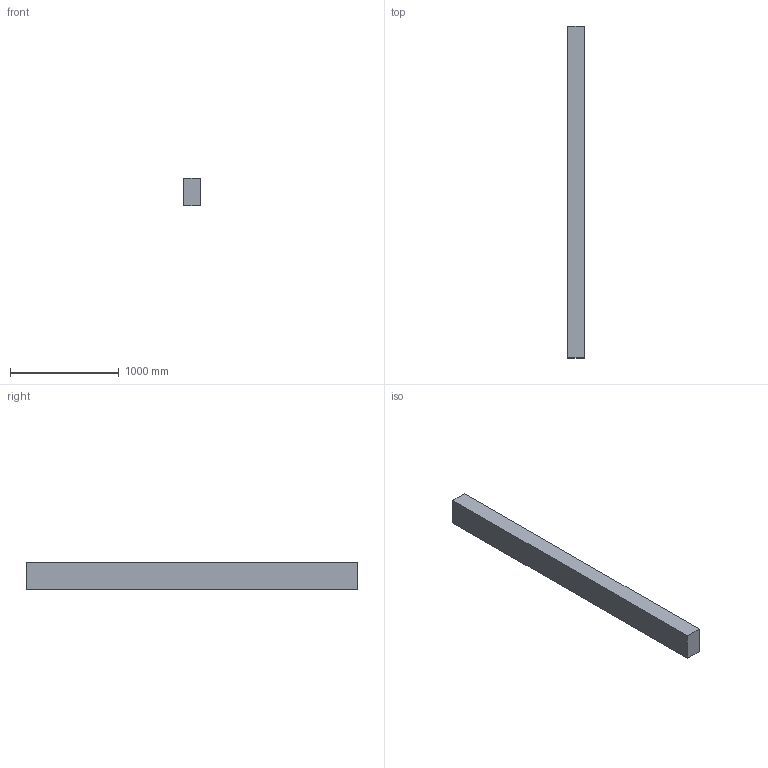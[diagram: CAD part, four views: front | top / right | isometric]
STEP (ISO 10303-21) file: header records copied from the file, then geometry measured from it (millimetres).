
FILE_DESCRIPTION(/* description */ (''),/* implementation_level */ '2;1');
FILE_NAME(/* name */ '6x10x120',/* time_stamp */ '2024-09-20T11:47:31-05:00',/* author */ (''),/* organization */ (''),/* preprocessor_version */ 'ST-DEVELOPER v19.2',/* originating_system */ 'Rhino 8.5',/* authorisation */ '');
FILE_SCHEMA (('CONFIG_CONTROL_DESIGN'));
Length unit declared in the file: inch
Products named in the file (1): Document
Bounding box: 152.4 x 3048 x 254 mm (x, y, z)
Volume: 117986860.8 mm3; surface area: 2554833.6 mm2
Topology: 1 solids, 1 shells, 6 faces, 12 edges, 8 vertices
Faces by surface type: plane 6
Entity records: 226 total; most frequent: CARTESIAN_POINT 40, ORIENTED_EDGE 24, EDGE_CURVE 12, B_SPLINE_CURVE_WITH_KNOTS 12, DIRECTION 10, VERTEX_POINT 8, AXIS2_PLACEMENT_3D 8, ORGANIZATION 7
